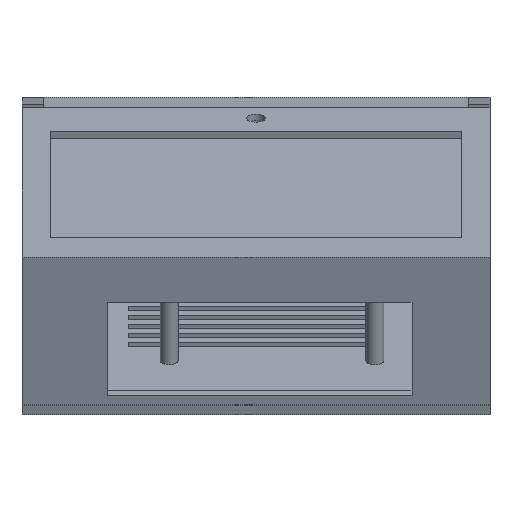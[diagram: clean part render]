
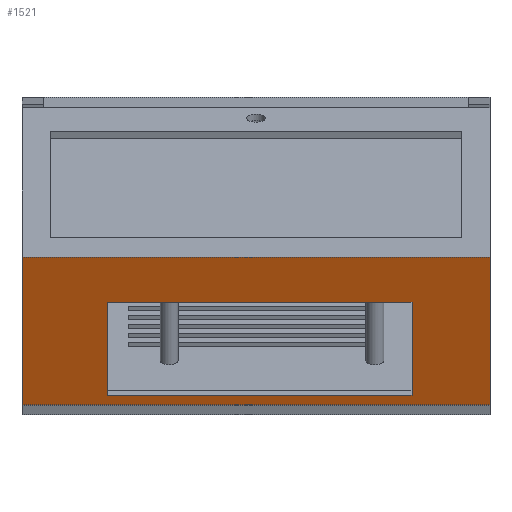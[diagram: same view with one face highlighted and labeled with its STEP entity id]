
A CAD part, top view. The second image highlights one B-rep face of the part: STEP entity #1521.
In plain terms, the highlighted planar face has unit normal (0, -0.423, 0.906).
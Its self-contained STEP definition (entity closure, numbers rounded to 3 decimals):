
#70 = PLANE('',#71);
#71 = AXIS2_PLACEMENT_3D('',#72,#73,#74);
#72 = CARTESIAN_POINT('',(0.,0.,27.44));
#73 = DIRECTION('',(1.,0.,0.));
#74 = DIRECTION('',(0.,-0.906,-0.423));
#258 = VERTEX_POINT('',#259);
#259 = CARTESIAN_POINT('',(0.,-42.262,118.071));
#273 = PLANE('',#274);
#274 = AXIS2_PLACEMENT_3D('',#275,#276,#277);
#275 = CARTESIAN_POINT('',(0.,0.,27.44));
#276 = DIRECTION('',(0.,-0.906,-0.423));
#277 = DIRECTION('',(1.,0.,0.));
#285 = EDGE_CURVE('',#258,#286,#288,.T.);
#286 = VERTEX_POINT('',#287);
#287 = CARTESIAN_POINT('',(0.,-83.861,98.673));
#288 = SURFACE_CURVE('',#289,(#293,#300),.PCURVE_S1.);
#289 = LINE('',#290,#291);
#290 = CARTESIAN_POINT('',(0.,-42.262,118.071));
#291 = VECTOR('',#292,1.);
#292 = DIRECTION('',(0.,-0.906,-0.423));
#293 = PCURVE('',#70,#294);
#294 = DEFINITIONAL_REPRESENTATION('',(#295),#299);
#295 = LINE('',#296,#297);
#296 = CARTESIAN_POINT('',(0.,-100.));
#297 = VECTOR('',#298,1.);
#298 = DIRECTION('',(1.,0.));
#299 = ( GEOMETRIC_REPRESENTATION_CONTEXT(2) 
PARAMETRIC_REPRESENTATION_CONTEXT() REPRESENTATION_CONTEXT('2D SPACE',''
  ) );
#300 = PCURVE('',#301,#306);
#301 = PLANE('',#302);
#302 = AXIS2_PLACEMENT_3D('',#303,#304,#305);
#303 = CARTESIAN_POINT('',(0.,-42.262,118.071));
#304 = DIRECTION('',(0.,-0.423,0.906));
#305 = DIRECTION('',(0.,-0.906,-0.423));
#306 = DEFINITIONAL_REPRESENTATION('',(#307),#311);
#307 = LINE('',#308,#309);
#308 = CARTESIAN_POINT('',(0.,0.));
#309 = VECTOR('',#310,1.);
#310 = DIRECTION('',(1.,0.));
#311 = ( GEOMETRIC_REPRESENTATION_CONTEXT(2) 
PARAMETRIC_REPRESENTATION_CONTEXT() REPRESENTATION_CONTEXT('2D SPACE',''
  ) );
#328 = PLANE('',#329);
#329 = AXIS2_PLACEMENT_3D('',#330,#331,#332);
#330 = CARTESIAN_POINT('',(-0.2,-41.515,7.861));
#331 = DIRECTION('',(0.,-0.906,-0.423));
#332 = DIRECTION('',(1.,0.,0.));
#644 = PLANE('',#645);
#645 = AXIS2_PLACEMENT_3D('',#646,#647,#648);
#646 = CARTESIAN_POINT('',(132.,-80.,0.));
#647 = DIRECTION('',(1.,0.,-0.));
#648 = DIRECTION('',(0.,0.,1.));
#1137 = VERTEX_POINT('',#1138);
#1138 = CARTESIAN_POINT('',(132.,-83.861,98.673));
#1157 = EDGE_CURVE('',#286,#1137,#1158,.T.);
#1158 = SURFACE_CURVE('',#1159,(#1163,#1169),.PCURVE_S1.);
#1159 = LINE('',#1160,#1161);
#1160 = CARTESIAN_POINT('',(-0.1,-83.861,98.673));
#1161 = VECTOR('',#1162,1.);
#1162 = DIRECTION('',(1.,0.,0.));
#1163 = PCURVE('',#328,#1164);
#1164 = DEFINITIONAL_REPRESENTATION('',(#1165),#1168);
#1165 = B_SPLINE_CURVE_WITH_KNOTS('',1,(#1166,#1167),.UNSPECIFIED.,.F.,
  .F.,(2,2),(0.1,132.1),.PIECEWISE_BEZIER_KNOTS.);
#1166 = CARTESIAN_POINT('',(0.2,100.2));
#1167 = CARTESIAN_POINT('',(132.2,100.2));
#1168 = ( GEOMETRIC_REPRESENTATION_CONTEXT(2) 
PARAMETRIC_REPRESENTATION_CONTEXT() REPRESENTATION_CONTEXT('2D SPACE',''
  ) );
#1169 = PCURVE('',#301,#1170);
#1170 = DEFINITIONAL_REPRESENTATION('',(#1171),#1174);
#1171 = B_SPLINE_CURVE_WITH_KNOTS('',1,(#1172,#1173),.UNSPECIFIED.,.F.,
  .F.,(2,2),(0.1,132.1),.PIECEWISE_BEZIER_KNOTS.);
#1172 = CARTESIAN_POINT('',(45.9,0.));
#1173 = CARTESIAN_POINT('',(45.9,132.));
#1174 = ( GEOMETRIC_REPRESENTATION_CONTEXT(2) 
PARAMETRIC_REPRESENTATION_CONTEXT() REPRESENTATION_CONTEXT('2D SPACE',''
  ) );
#1521 = ADVANCED_FACE('',(#1522,#1570),#301,.T.);
#1522 = FACE_BOUND('',#1523,.T.);
#1523 = EDGE_LOOP('',(#1524,#1547,#1568,#1569));
#1524 = ORIENTED_EDGE('',*,*,#1525,.F.);
#1525 = EDGE_CURVE('',#1526,#1137,#1528,.T.);
#1526 = VERTEX_POINT('',#1527);
#1527 = CARTESIAN_POINT('',(132.,-42.262,118.071));
#1528 = SURFACE_CURVE('',#1529,(#1533,#1540),.PCURVE_S1.);
#1529 = LINE('',#1530,#1531);
#1530 = CARTESIAN_POINT('',(132.,-42.262,118.071));
#1531 = VECTOR('',#1532,1.);
#1532 = DIRECTION('',(0.,-0.906,-0.423));
#1533 = PCURVE('',#301,#1534);
#1534 = DEFINITIONAL_REPRESENTATION('',(#1535),#1539);
#1535 = LINE('',#1536,#1537);
#1536 = CARTESIAN_POINT('',(0.,132.));
#1537 = VECTOR('',#1538,1.);
#1538 = DIRECTION('',(1.,0.));
#1539 = ( GEOMETRIC_REPRESENTATION_CONTEXT(2) 
PARAMETRIC_REPRESENTATION_CONTEXT() REPRESENTATION_CONTEXT('2D SPACE',''
  ) );
#1540 = PCURVE('',#644,#1541);
#1541 = DEFINITIONAL_REPRESENTATION('',(#1542),#1546);
#1542 = LINE('',#1543,#1544);
#1543 = CARTESIAN_POINT('',(118.071,-37.738));
#1544 = VECTOR('',#1545,1.);
#1545 = DIRECTION('',(-0.423,0.906));
#1546 = ( GEOMETRIC_REPRESENTATION_CONTEXT(2) 
PARAMETRIC_REPRESENTATION_CONTEXT() REPRESENTATION_CONTEXT('2D SPACE',''
  ) );
#1547 = ORIENTED_EDGE('',*,*,#1548,.F.);
#1548 = EDGE_CURVE('',#258,#1526,#1549,.T.);
#1549 = SURFACE_CURVE('',#1550,(#1554,#1561),.PCURVE_S1.);
#1550 = LINE('',#1551,#1552);
#1551 = CARTESIAN_POINT('',(0.,-42.262,118.071));
#1552 = VECTOR('',#1553,1.);
#1553 = DIRECTION('',(1.,0.,0.));
#1554 = PCURVE('',#301,#1555);
#1555 = DEFINITIONAL_REPRESENTATION('',(#1556),#1560);
#1556 = LINE('',#1557,#1558);
#1557 = CARTESIAN_POINT('',(0.,0.));
#1558 = VECTOR('',#1559,1.);
#1559 = DIRECTION('',(0.,1.));
#1560 = ( GEOMETRIC_REPRESENTATION_CONTEXT(2) 
PARAMETRIC_REPRESENTATION_CONTEXT() REPRESENTATION_CONTEXT('2D SPACE',''
  ) );
#1561 = PCURVE('',#273,#1562);
#1562 = DEFINITIONAL_REPRESENTATION('',(#1563),#1567);
#1563 = LINE('',#1564,#1565);
#1564 = CARTESIAN_POINT('',(0.,100.));
#1565 = VECTOR('',#1566,1.);
#1566 = DIRECTION('',(1.,0.));
#1567 = ( GEOMETRIC_REPRESENTATION_CONTEXT(2) 
PARAMETRIC_REPRESENTATION_CONTEXT() REPRESENTATION_CONTEXT('2D SPACE',''
  ) );
#1568 = ORIENTED_EDGE('',*,*,#285,.T.);
#1569 = ORIENTED_EDGE('',*,*,#1157,.T.);
#1570 = FACE_BOUND('',#1571,.T.);
#1571 = EDGE_LOOP('',(#1572,#1602,#1630,#1658));
#1572 = ORIENTED_EDGE('',*,*,#1573,.F.);
#1573 = EDGE_CURVE('',#1574,#1576,#1578,.T.);
#1574 = VERTEX_POINT('',#1575);
#1575 = CARTESIAN_POINT('',(24.,-81.233,99.899));
#1576 = VERTEX_POINT('',#1577);
#1577 = CARTESIAN_POINT('',(110.,-81.233,99.899));
#1578 = SURFACE_CURVE('',#1579,(#1583,#1590),.PCURVE_S1.);
#1579 = LINE('',#1580,#1581);
#1580 = CARTESIAN_POINT('',(12.,-81.233,99.899));
#1581 = VECTOR('',#1582,1.);
#1582 = DIRECTION('',(1.,0.,0.));
#1583 = PCURVE('',#301,#1584);
#1584 = DEFINITIONAL_REPRESENTATION('',(#1585),#1589);
#1585 = LINE('',#1586,#1587);
#1586 = CARTESIAN_POINT('',(43.,12.));
#1587 = VECTOR('',#1588,1.);
#1588 = DIRECTION('',(0.,1.));
#1589 = ( GEOMETRIC_REPRESENTATION_CONTEXT(2) 
PARAMETRIC_REPRESENTATION_CONTEXT() REPRESENTATION_CONTEXT('2D SPACE',''
  ) );
#1590 = PCURVE('',#1591,#1596);
#1591 = PLANE('',#1592);
#1592 = AXIS2_PLACEMENT_3D('',#1593,#1594,#1595);
#1593 = CARTESIAN_POINT('',(24.,-79.543,96.273));
#1594 = DIRECTION('',(0.,-0.906,-0.423));
#1595 = DIRECTION('',(1.,0.,0.));
#1596 = DEFINITIONAL_REPRESENTATION('',(#1597),#1601);
#1597 = LINE('',#1598,#1599);
#1598 = CARTESIAN_POINT('',(-12.,4.));
#1599 = VECTOR('',#1600,1.);
#1600 = DIRECTION('',(1.,0.));
#1601 = ( GEOMETRIC_REPRESENTATION_CONTEXT(2) 
PARAMETRIC_REPRESENTATION_CONTEXT() REPRESENTATION_CONTEXT('2D SPACE',''
  ) );
#1602 = ORIENTED_EDGE('',*,*,#1603,.T.);
#1603 = EDGE_CURVE('',#1574,#1604,#1606,.T.);
#1604 = VERTEX_POINT('',#1605);
#1605 = CARTESIAN_POINT('',(24.,-54.95,112.155));
#1606 = SURFACE_CURVE('',#1607,(#1611,#1618),.PCURVE_S1.);
#1607 = LINE('',#1608,#1609);
#1608 = CARTESIAN_POINT('',(24.,-48.606,115.113));
#1609 = VECTOR('',#1610,1.);
#1610 = DIRECTION('',(0.,0.906,0.423));
#1611 = PCURVE('',#301,#1612);
#1612 = DEFINITIONAL_REPRESENTATION('',(#1613),#1617);
#1613 = LINE('',#1614,#1615);
#1614 = CARTESIAN_POINT('',(7.,24.));
#1615 = VECTOR('',#1616,1.);
#1616 = DIRECTION('',(-1.,0.));
#1617 = ( GEOMETRIC_REPRESENTATION_CONTEXT(2) 
PARAMETRIC_REPRESENTATION_CONTEXT() REPRESENTATION_CONTEXT('2D SPACE',''
  ) );
#1618 = PCURVE('',#1619,#1624);
#1619 = PLANE('',#1620);
#1620 = AXIS2_PLACEMENT_3D('',#1621,#1622,#1623);
#1621 = CARTESIAN_POINT('',(24.,-53.26,108.529));
#1622 = DIRECTION('',(1.,0.,0.));
#1623 = DIRECTION('',(0.,-0.906,-0.423));
#1624 = DEFINITIONAL_REPRESENTATION('',(#1625),#1629);
#1625 = LINE('',#1626,#1627);
#1626 = CARTESIAN_POINT('',(-7.,-4.));
#1627 = VECTOR('',#1628,1.);
#1628 = DIRECTION('',(-1.,0.));
#1629 = ( GEOMETRIC_REPRESENTATION_CONTEXT(2) 
PARAMETRIC_REPRESENTATION_CONTEXT() REPRESENTATION_CONTEXT('2D SPACE',''
  ) );
#1630 = ORIENTED_EDGE('',*,*,#1631,.T.);
#1631 = EDGE_CURVE('',#1604,#1632,#1634,.T.);
#1632 = VERTEX_POINT('',#1633);
#1633 = CARTESIAN_POINT('',(110.,-54.95,112.155));
#1634 = SURFACE_CURVE('',#1635,(#1639,#1646),.PCURVE_S1.);
#1635 = LINE('',#1636,#1637);
#1636 = CARTESIAN_POINT('',(12.,-54.95,112.155));
#1637 = VECTOR('',#1638,1.);
#1638 = DIRECTION('',(1.,0.,0.));
#1639 = PCURVE('',#301,#1640);
#1640 = DEFINITIONAL_REPRESENTATION('',(#1641),#1645);
#1641 = LINE('',#1642,#1643);
#1642 = CARTESIAN_POINT('',(14.,12.));
#1643 = VECTOR('',#1644,1.);
#1644 = DIRECTION('',(0.,1.));
#1645 = ( GEOMETRIC_REPRESENTATION_CONTEXT(2) 
PARAMETRIC_REPRESENTATION_CONTEXT() REPRESENTATION_CONTEXT('2D SPACE',''
  ) );
#1646 = PCURVE('',#1647,#1652);
#1647 = PLANE('',#1648);
#1648 = AXIS2_PLACEMENT_3D('',#1649,#1650,#1651);
#1649 = CARTESIAN_POINT('',(24.,-53.26,108.529));
#1650 = DIRECTION('',(0.,-0.906,-0.423));
#1651 = DIRECTION('',(1.,0.,0.));
#1652 = DEFINITIONAL_REPRESENTATION('',(#1653),#1657);
#1653 = LINE('',#1654,#1655);
#1654 = CARTESIAN_POINT('',(-12.,4.));
#1655 = VECTOR('',#1656,1.);
#1656 = DIRECTION('',(1.,0.));
#1657 = ( GEOMETRIC_REPRESENTATION_CONTEXT(2) 
PARAMETRIC_REPRESENTATION_CONTEXT() REPRESENTATION_CONTEXT('2D SPACE',''
  ) );
#1658 = ORIENTED_EDGE('',*,*,#1659,.F.);
#1659 = EDGE_CURVE('',#1576,#1632,#1660,.T.);
#1660 = SURFACE_CURVE('',#1661,(#1665,#1672),.PCURVE_S1.);
#1661 = LINE('',#1662,#1663);
#1662 = CARTESIAN_POINT('',(110.,-48.606,115.113));
#1663 = VECTOR('',#1664,1.);
#1664 = DIRECTION('',(0.,0.906,0.423));
#1665 = PCURVE('',#301,#1666);
#1666 = DEFINITIONAL_REPRESENTATION('',(#1667),#1671);
#1667 = LINE('',#1668,#1669);
#1668 = CARTESIAN_POINT('',(7.,110.));
#1669 = VECTOR('',#1670,1.);
#1670 = DIRECTION('',(-1.,0.));
#1671 = ( GEOMETRIC_REPRESENTATION_CONTEXT(2) 
PARAMETRIC_REPRESENTATION_CONTEXT() REPRESENTATION_CONTEXT('2D SPACE',''
  ) );
#1672 = PCURVE('',#1673,#1678);
#1673 = PLANE('',#1674);
#1674 = AXIS2_PLACEMENT_3D('',#1675,#1676,#1677);
#1675 = CARTESIAN_POINT('',(110.,-53.26,108.529));
#1676 = DIRECTION('',(1.,0.,0.));
#1677 = DIRECTION('',(0.,-0.906,-0.423));
#1678 = DEFINITIONAL_REPRESENTATION('',(#1679),#1683);
#1679 = LINE('',#1680,#1681);
#1680 = CARTESIAN_POINT('',(-7.,-4.));
#1681 = VECTOR('',#1682,1.);
#1682 = DIRECTION('',(-1.,0.));
#1683 = ( GEOMETRIC_REPRESENTATION_CONTEXT(2) 
PARAMETRIC_REPRESENTATION_CONTEXT() REPRESENTATION_CONTEXT('2D SPACE',''
  ) );
